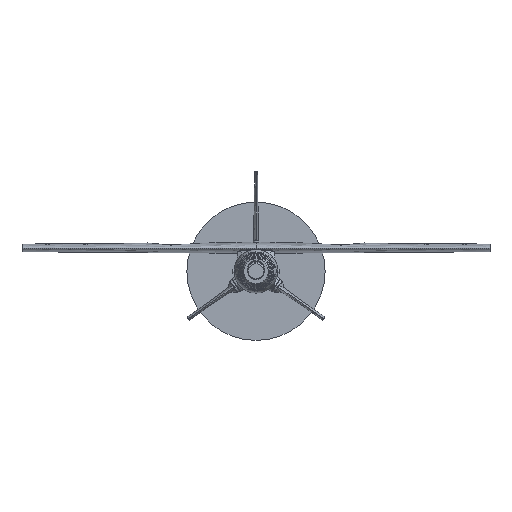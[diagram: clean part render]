
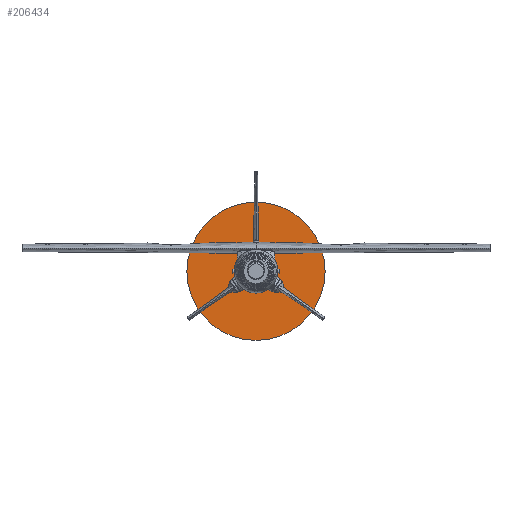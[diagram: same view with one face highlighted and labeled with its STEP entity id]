
A CAD part, left-side view. The second image highlights one B-rep face of the part: STEP entity #206434.
In plain terms, the highlighted planar face has unit normal (-1, 0, 0).
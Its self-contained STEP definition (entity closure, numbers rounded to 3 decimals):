
#206356 = CYLINDRICAL_SURFACE('',#206357,63.5);
#206357 = AXIS2_PLACEMENT_3D('',#206358,#206359,#206360);
#206358 = CARTESIAN_POINT('',(450.85,0.,0.));
#206359 = DIRECTION('',(1.,0.,0.));
#206360 = DIRECTION('',(-0.,0.,1.));
#206381 = VERTEX_POINT('',#206382);
#206382 = CARTESIAN_POINT('',(450.85,0.,63.5));
#206403 = EDGE_CURVE('',#206381,#206381,#206404,.T.);
#206404 = SURFACE_CURVE('',#206405,(#206410,#206417),.PCURVE_S1.);
#206405 = CIRCLE('',#206406,63.5);
#206406 = AXIS2_PLACEMENT_3D('',#206407,#206408,#206409);
#206407 = CARTESIAN_POINT('',(450.85,0.,0.));
#206408 = DIRECTION('',(1.,0.,0.));
#206409 = DIRECTION('',(-0.,0.,1.));
#206410 = PCURVE('',#206356,#206411);
#206411 = DEFINITIONAL_REPRESENTATION('',(#206412),#206416);
#206412 = LINE('',#206413,#206414);
#206413 = CARTESIAN_POINT('',(0.,0.));
#206414 = VECTOR('',#206415,1.);
#206415 = DIRECTION('',(1.,0.));
#206416 = ( GEOMETRIC_REPRESENTATION_CONTEXT(2) 
PARAMETRIC_REPRESENTATION_CONTEXT() REPRESENTATION_CONTEXT('2D SPACE',''
  ) );
#206417 = PCURVE('',#206418,#206423);
#206418 = PLANE('',#206419);
#206419 = AXIS2_PLACEMENT_3D('',#206420,#206421,#206422);
#206420 = CARTESIAN_POINT('',(450.85,0.,0.));
#206421 = DIRECTION('',(1.,0.,0.));
#206422 = DIRECTION('',(-0.,0.,1.));
#206423 = DEFINITIONAL_REPRESENTATION('',(#206424),#206428);
#206424 = CIRCLE('',#206425,63.5);
#206425 = AXIS2_PLACEMENT_2D('',#206426,#206427);
#206426 = CARTESIAN_POINT('',(0.,0.));
#206427 = DIRECTION('',(1.,0.));
#206428 = ( GEOMETRIC_REPRESENTATION_CONTEXT(2) 
PARAMETRIC_REPRESENTATION_CONTEXT() REPRESENTATION_CONTEXT('2D SPACE',''
  ) );
#206434 = ADVANCED_FACE('',(#206435),#206418,.F.);
#206435 = FACE_BOUND('',#206436,.T.);
#206436 = EDGE_LOOP('',(#206437));
#206437 = ORIENTED_EDGE('',*,*,#206403,.F.);
